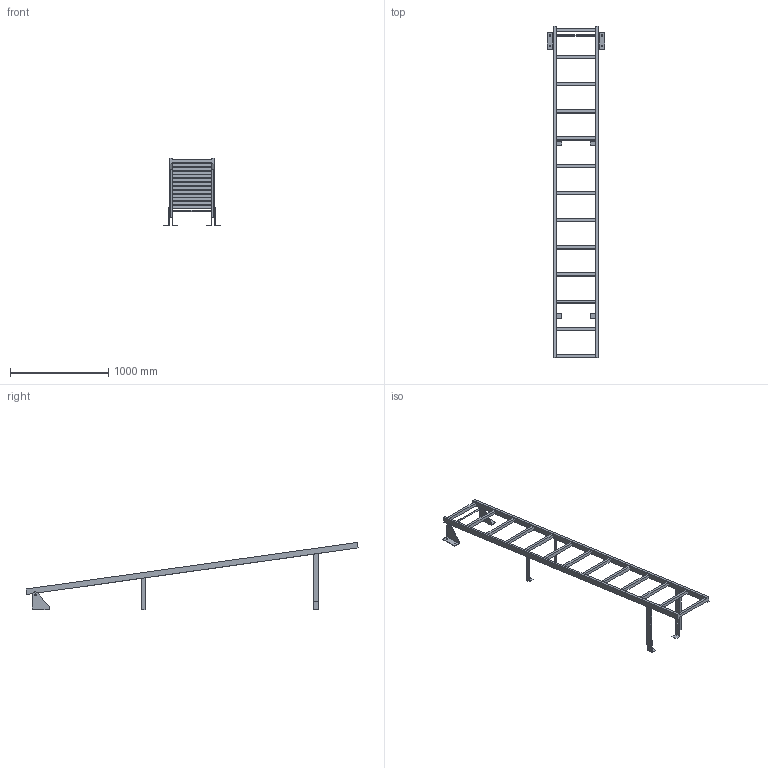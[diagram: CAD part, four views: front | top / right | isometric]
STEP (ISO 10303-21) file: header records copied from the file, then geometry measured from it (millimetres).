
FILE_DESCRIPTION((''),'2;1');
FILE_NAME('52307433','2024-10-16T12:06:01',('wep'),('HUBER SE'),'CREO PARAMETRIC BY PTC INC, 2022162','CREO PARAMETRIC BY PTC INC, 2022162','');
FILE_SCHEMA(('AUTOMOTIVE_DESIGN { 1 0 10303 214 1 1 1 1 }'));
Length unit declared in the file: millimetre
Products named in the file (1): 52307433
Bounding box: 590 x 3384.75 x 685.27 mm (x, y, z)
Volume: 16241315.7 mm3; surface area: 2148385.9 mm2
Topology: 6 solids, 6 shells, 138 faces, 368 edges, 244 vertices
Faces by surface type: plane 122, cylinder 16
Entity records: 4863 total; most frequent: CARTESIAN_POINT 752, ORIENTED_EDGE 736, DIRECTION 676, EDGE_CURVE 368, VECTOR 336, LINE 336, VERTEX_POINT 244, EDGE_LOOP 176
